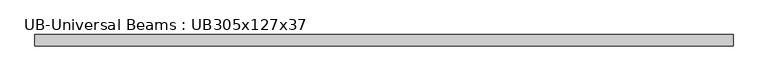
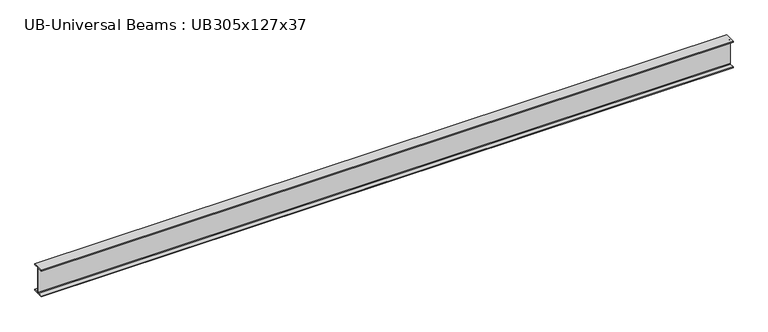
"""IFC4 building model written with IfcOpenShell, lengths in millimetres: beam geometry, UB-Universal Beams : UB305x127x37."""

from ifc_helpers import new_model, si_unit, point, frame, frame_2d, origin, place, context, project, spatial, polyline, circle_curve, trimmed, segment, composite_curve, outline, extrude, source, transform, mapped, element, save


def ub_universal_beams_ub305x127x37_777f85ab(model_context):
    return source(origin(), model_context, "Body", "SweptSolid", [
        extrude(outline(composite_curve([segment(polyline([(61.7, -141.5), (61.7, -152.2), (-61.7, -152.2), (-61.7, -141.5), (-12.45, -141.5)]), True, "CONTINUOUS"), segment(trimmed(circle_curve(frame_2d((-12.45, -132.6)), 8.9), [point((-12.45, -141.5))], [point((-3.55, -132.6))], True, "CARTESIAN"), True, "CONTINUOUS"), segment(polyline([(-3.55, -132.6), (-3.55, 132.6)]), True, "CONTINUOUS"), segment(trimmed(circle_curve(frame_2d((-12.45, 132.6)), 8.9), [point((-3.55, 132.6))], [point((-12.45, 141.5))], True, "CARTESIAN"), True, "CONTINUOUS"), segment(polyline([(-12.45, 141.5), (-61.7, 141.5), (-61.7, 152.2), (61.7, 152.2), (61.7, 141.5), (12.45, 141.5)]), True, "CONTINUOUS"), segment(trimmed(circle_curve(frame_2d((12.45, 132.6)), 8.9), [point((12.45, 141.5))], [point((3.55, 132.6))], True, "CARTESIAN"), True, "CONTINUOUS"), segment(polyline([(3.55, 132.6), (3.55, -132.6)]), True, "CONTINUOUS"), segment(trimmed(circle_curve(frame_2d((12.45, -132.6)), 8.9), [point((3.55, -132.6))], [point((12.45, -141.5))], True, "CARTESIAN"), True, "CONTINUOUS"), segment(polyline([(12.45, -141.5), (61.7, -141.5)]), True, "CONTINUOUS")], self_intersect=False)), frame((-3760.4, 0.0, 0.0), z_axis=(1.0, 0.0, 0.0), x_axis=(0.0, 1.0, 0.0)), (0.0, 0.0, 1.0), 7520.8),
    ])


if __name__ == "__main__":
    model = new_model("IFC4")
    model_context = context("Model", 3, world=origin())
    ifc_project = project(units=[si_unit("LENGTHUNIT", "METRE", prefix="MILLI")], contexts=[model_context])
    site = spatial("IfcSite", under=ifc_project)
    building = spatial("IfcBuilding", under=site)
    placement = place(None, origin())
    ub_universal_beams_ub305x127x37_shape = ub_universal_beams_ub305x127x37_777f85ab(model_context)
    element("IfcBeam", 1, ObjectType="UB-Universal Beams : UB305x127x37", at=placement, inside=building, context=model_context, shape_type="MappedRepresentation", body=[
        mapped(ub_universal_beams_ub305x127x37_shape, transform((0.0, 0.0, 0.0), x_axis=(1.0, 0.0, 0.0), y_axis=(0.0, 1.0, 0.0), z_axis=(0.0, 0.0, 1.0))),
    ])
    save(model, "model.ifc")
